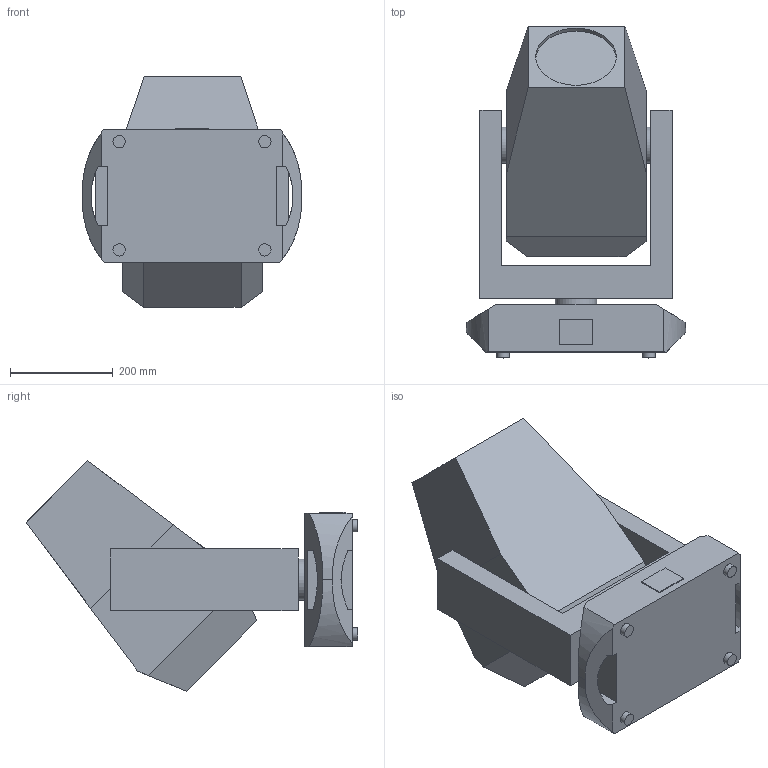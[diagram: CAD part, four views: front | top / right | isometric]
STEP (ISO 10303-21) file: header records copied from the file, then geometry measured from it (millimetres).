
FILE_DESCRIPTION(/* description */ (''),/* implementation_level */ '2;1');
FILE_NAME(/* name */ 'MAVERICKFORCE2SOLOWASH_45.stp',/* time_stamp */ '2025-05-02T15:06:07-04:00',/* author */ ('chenry'),/* organization */ (''),/* preprocessor_version */ 'ST-DEVELOPER v20',/* originating_system */ 'Autodesk Inventor 2024',/* authorisation */ '');
FILE_SCHEMA (('AUTOMOTIVE_DESIGN { 1 0 10303 214 3 1 1 }'));
Length unit declared in the file: millimetre
Products named in the file (4): M-480W-00-00_ASM; base; arm; head
Assembly tree (3 placements, depth 2):
  M-480W-00-00_ASM
    base
    arm
    head
Bounding box: 425.44 x 644.5 x 448.12 mm (x, y, z)
Volume: 39568411.5 mm3; surface area: 1200561.6 mm2
Topology: 3 solids, 3 shells, 69 faces, 162 edges, 108 vertices
Faces by surface type: plane 51, cylinder 18
Full cylindrical faces by diameter (mm): 24.037 x4, 70.711 x3, 80.349 x2, 157 x1
Entity records: 2156 total; most frequent: DIRECTION 354, CARTESIAN_POINT 346, ORIENTED_EDGE 324, EDGE_CURVE 162, LINE 122, VECTOR 122, AXIS2_PLACEMENT_3D 116, VERTEX_POINT 108
